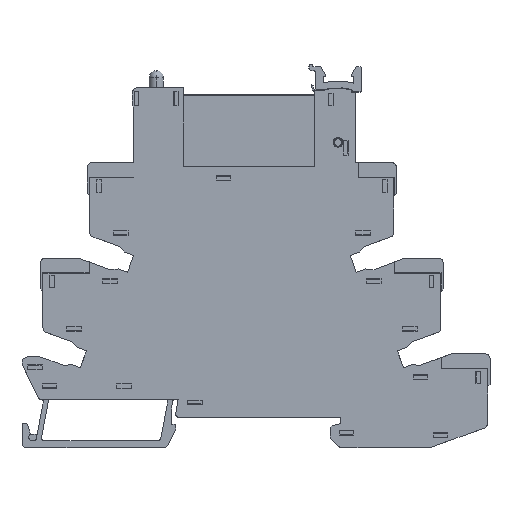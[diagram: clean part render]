
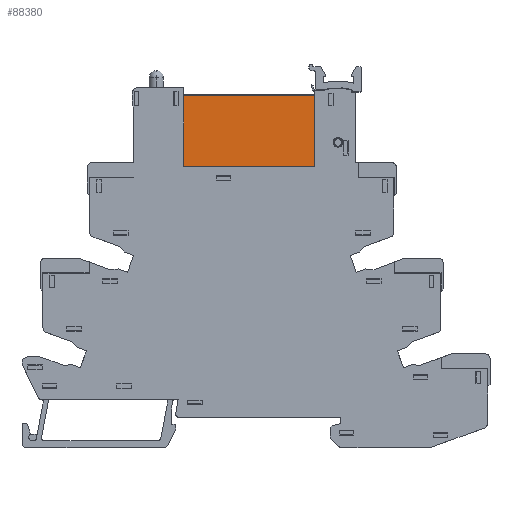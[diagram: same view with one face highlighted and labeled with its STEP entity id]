
A CAD part, top view. The second image highlights one B-rep face of the part: STEP entity #88380.
In plain terms, the highlighted planar face has unit normal (0, 0, 1).
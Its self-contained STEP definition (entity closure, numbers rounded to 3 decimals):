
#325 = B_SPLINE_CURVE_WITH_KNOTS ( 'NONE', 3,
 ( #3113, #65673, #66959, #65387, #64791, #64891, #71354, #77214, #76158, #29651, #39559, #78508, #57480 ),
 .UNSPECIFIED., .F., .F.,
 ( 4, 2, 2, 1, 2, 2, 4 ),
 ( 0., 0.25, 0.5, 0.625, 0.687, 0.75, 1. ),
 .UNSPECIFIED. ) ;
#2086 = CARTESIAN_POINT ( 'NONE',  ( -13.644, 44.39, 5.55 ) ) ;
#2944 = CARTESIAN_POINT ( 'NONE',  ( 13.606, 30.14, 5.55 ) ) ;
#3087 = EDGE_CURVE ( 'NONE', #23657, #67649, #325, .T. ) ;
#3113 = CARTESIAN_POINT ( 'NONE',  ( 13.956, 44.39, 5.55 ) ) ;
#3810 = CARTESIAN_POINT ( 'NONE',  ( -13.467, 44.698, 5.55 ) ) ;
#5838 = ORIENTED_EDGE ( 'NONE', *, *, #57375, .T. ) ;
#8685 = CARTESIAN_POINT ( 'NONE',  ( -13.294, 44.74, 5.55 ) ) ;
#9303 = CARTESIAN_POINT ( 'NONE',  ( 13.606, 44.74, 5.55 ) ) ;
#9563 = VERTEX_POINT ( 'NONE', #83401 ) ;
#10088 = EDGE_CURVE ( 'NONE', #67649, #78774, #64766, .T. ) ;
#10680 = CARTESIAN_POINT ( 'NONE',  ( -13.558, 44.621, 5.55 ) ) ;
#16107 = DIRECTION ( 'NONE',  ( -1., 0., 0. ) ) ;
#17474 = CARTESIAN_POINT ( 'NONE',  ( -13.598, 44.563, 5.55 ) ) ;
#20188 = FACE_OUTER_BOUND ( 'NONE', #21132, .T. ) ;
#21132 = EDGE_LOOP ( 'NONE', ( #43724, #80698, #87061, #37593, #55101, #5838 ) ) ;
#22616 = DIRECTION ( 'NONE',  ( 0., -1., 0. ) ) ;
#23657 = VERTEX_POINT ( 'NONE', #45094 ) ;
#23658 = AXIS2_PLACEMENT_3D ( 'NONE', #87057, #73623, #32809 ) ;
#24051 = CARTESIAN_POINT ( 'NONE',  ( 13.606, 44.74, 5.55 ) ) ;
#24351 = CARTESIAN_POINT ( 'NONE',  ( -13.615, 44.529, 5.55 ) ) ;
#27540 = VECTOR ( 'NONE', #84448, 1000. ) ;
#29651 = CARTESIAN_POINT ( 'NONE',  ( 13.745, 44.711, 5.55 ) ) ;
#31100 = CARTESIAN_POINT ( 'NONE',  ( -13.644, 44.435, 5.55 ) ) ;
#32809 = DIRECTION ( 'NONE',  ( 1., 0., 0. ) ) ;
#37593 = ORIENTED_EDGE ( 'NONE', *, *, #3087, .T. ) ;
#37776 = VECTOR ( 'NONE', #50521, 1000. ) ;
#39385 = PLANE ( 'NONE',  #23658 ) ;
#39559 = CARTESIAN_POINT ( 'NONE',  ( 13.694, 44.732, 5.55 ) ) ;
#40662 = CARTESIAN_POINT ( 'NONE',  ( -13.644, 44.39, 5.55 ) ) ;
#43724 = ORIENTED_EDGE ( 'NONE', *, *, #50864, .T. ) ;
#44249 = CARTESIAN_POINT ( 'NONE',  ( -13.338, 44.74, 5.55 ) ) ;
#44541 = VECTOR ( 'NONE', #16107, 1000. ) ;
#44549 = CARTESIAN_POINT ( 'NONE',  ( -13.379, 44.733, 5.55 ) ) ;
#45094 = CARTESIAN_POINT ( 'NONE',  ( 13.956, 44.39, 5.55 ) ) ;
#45699 = LINE ( 'NONE', #55614, #27540 ) ;
#50521 = DIRECTION ( 'NONE',  ( 1., 0., 0. ) ) ;
#50864 = EDGE_CURVE ( 'NONE', #56710, #54831, #72388, .T. ) ;
#51121 = CARTESIAN_POINT ( 'NONE',  ( -13.294, 44.74, 5.55 ) ) ;
#51410 = CARTESIAN_POINT ( 'NONE',  ( -13.508, 44.671, 5.55 ) ) ;
#54288 = VECTOR ( 'NONE', #22616, 1000. ) ;
#54831 = VERTEX_POINT ( 'NONE', #88255 ) ;
#55101 = ORIENTED_EDGE ( 'NONE', *, *, #10088, .T. ) ;
#55614 = CARTESIAN_POINT ( 'NONE',  ( 13.956, 44.39, 5.55 ) ) ;
#56710 = VERTEX_POINT ( 'NONE', #40662 ) ;
#57375 = EDGE_CURVE ( 'NONE', #78774, #56710, #68108, .T. ) ;
#57480 = CARTESIAN_POINT ( 'NONE',  ( 13.606, 44.74, 5.55 ) ) ;
#58241 = CARTESIAN_POINT ( 'NONE',  ( -13.58, 44.594, 5.55 ) ) ;
#58775 = EDGE_CURVE ( 'NONE', #9563, #23657, #45699, .T. ) ;
#64766 = LINE ( 'NONE', #9303, #44541 ) ;
#64791 = CARTESIAN_POINT ( 'NONE',  ( 13.887, 44.604, 5.55 ) ) ;
#64891 = CARTESIAN_POINT ( 'NONE',  ( 13.837, 44.654, 5.55 ) ) ;
#65078 = CARTESIAN_POINT ( 'NONE',  ( -13.61, 44.541, 5.55 ) ) ;
#65387 = CARTESIAN_POINT ( 'NONE',  ( 13.914, 44.563, 5.55 ) ) ;
#65673 = CARTESIAN_POINT ( 'NONE',  ( 13.956, 44.434, 5.55 ) ) ;
#66959 = CARTESIAN_POINT ( 'NONE',  ( 13.949, 44.475, 5.55 ) ) ;
#67649 = VERTEX_POINT ( 'NONE', #24051 ) ;
#68108 = B_SPLINE_CURVE_WITH_KNOTS ( 'NONE', 3,
 ( #51121, #44249, #44549, #3810, #51410, #10680, #58241, #17474, #65078, #24351, #71918, #31100, #78792 ),
 .UNSPECIFIED., .F., .F.,
 ( 4, 2, 2, 1, 2, 2, 4 ),
 ( 0., 0.25, 0.5, 0.625, 0.688, 0.75, 1. ),
 .UNSPECIFIED. ) ;
#71354 = CARTESIAN_POINT ( 'NONE',  ( 13.81, 44.677, 5.55 ) ) ;
#71918 = CARTESIAN_POINT ( 'NONE',  ( -13.636, 44.478, 5.55 ) ) ;
#72388 = LINE ( 'NONE', #2086, #54288 ) ;
#73623 = DIRECTION ( 'NONE',  ( 0., 0., 1. ) ) ;
#76158 = CARTESIAN_POINT ( 'NONE',  ( 13.758, 44.706, 5.55 ) ) ;
#77214 = CARTESIAN_POINT ( 'NONE',  ( 13.779, 44.695, 5.55 ) ) ;
#78508 = CARTESIAN_POINT ( 'NONE',  ( 13.651, 44.74, 5.55 ) ) ;
#78774 = VERTEX_POINT ( 'NONE', #8685 ) ;
#78792 = CARTESIAN_POINT ( 'NONE',  ( -13.644, 44.39, 5.55 ) ) ;
#80698 = ORIENTED_EDGE ( 'NONE', *, *, #83287, .T. ) ;
#83287 = EDGE_CURVE ( 'NONE', #54831, #9563, #87888, .T. ) ;
#83401 = CARTESIAN_POINT ( 'NONE',  ( 13.956, 30.14, 5.55 ) ) ;
#84448 = DIRECTION ( 'NONE',  ( 0., 1., 0. ) ) ;
#87057 = CARTESIAN_POINT ( 'NONE',  ( 13.606, 44.39, 5.55 ) ) ;
#87061 = ORIENTED_EDGE ( 'NONE', *, *, #58775, .T. ) ;
#87888 = LINE ( 'NONE', #2944, #37776 ) ;
#88255 = CARTESIAN_POINT ( 'NONE',  ( -13.644, 30.14, 5.55 ) ) ;
#88380 = ADVANCED_FACE ( 'NONE', ( #20188 ), #39385, .T. ) ;
